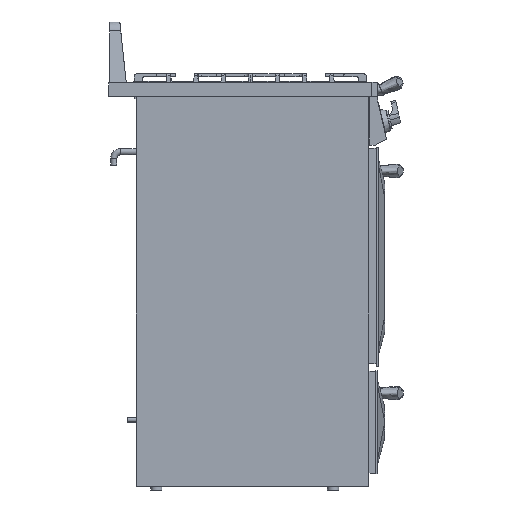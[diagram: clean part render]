
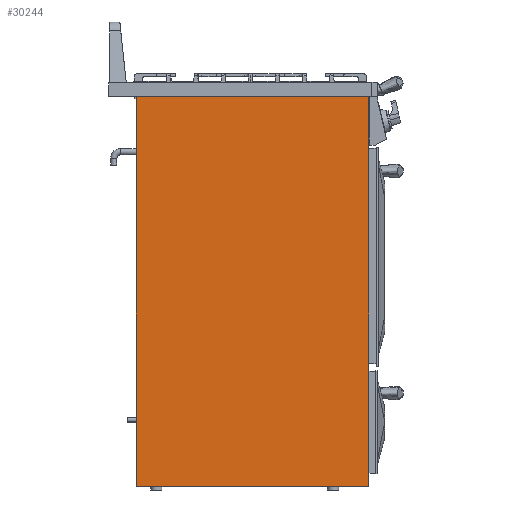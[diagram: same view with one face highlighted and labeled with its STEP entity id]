
A CAD part, left-side view. The second image highlights one B-rep face of the part: STEP entity #30244.
In plain terms, the highlighted planar face has unit normal (-1, 0, 0).
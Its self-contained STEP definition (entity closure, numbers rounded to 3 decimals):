
#1800=PLANE('',#32007);
#3167=LINE('',#52268,#5358);
#3290=LINE('',#57076,#5481);
#3296=LINE('',#57087,#5487);
#3298=LINE('',#57091,#5489);
#5358=VECTOR('',#35996,1000.);
#5481=VECTOR('',#36291,1000.);
#5487=VECTOR('',#36301,1000.);
#5489=VECTOR('',#36305,1000.);
#10803=ORIENTED_EDGE('',*,*,#16093,.T.);
#10804=ORIENTED_EDGE('',*,*,#16434,.F.);
#10805=ORIENTED_EDGE('',*,*,#16442,.F.);
#10806=ORIENTED_EDGE('',*,*,#16440,.F.);
#16093=EDGE_CURVE('',#19378,#19377,#3167,.T.);
#16434=EDGE_CURVE('',#19594,#19377,#3290,.T.);
#16440=EDGE_CURVE('',#19378,#19598,#3296,.T.);
#16442=EDGE_CURVE('',#19598,#19594,#3298,.T.);
#19377=VERTEX_POINT('',#52267);
#19378=VERTEX_POINT('',#52269);
#19594=VERTEX_POINT('',#57075);
#19598=VERTEX_POINT('',#57088);
#22218=EDGE_LOOP('',(#10803,#10804,#10805,#10806));
#23802=FACE_BOUND('',#22218,.T.);
#30244=ADVANCED_FACE('',(#23802),#1800,.T.);
#32007=AXIS2_PLACEMENT_3D('',#57090,#36303,#36304);
#35996=DIRECTION('',(0.,-1.,0.));
#36291=DIRECTION('',(0.,0.,-1.));
#36301=DIRECTION('',(0.,0.,1.));
#36303=DIRECTION('',(-1.,0.,0.));
#36304=DIRECTION('',(0.,-1.,0.));
#36305=DIRECTION('',(0.,-1.,0.));
#52267=CARTESIAN_POINT('',(-931.85,-273.149,-421.843));
#52268=CARTESIAN_POINT('',(-931.85,239.688,-421.843));
#52269=CARTESIAN_POINT('',(-931.85,239.688,-421.843));
#57075=CARTESIAN_POINT('',(-931.85,-273.149,438.157));
#57076=CARTESIAN_POINT('',(-931.85,-273.149,438.157));
#57087=CARTESIAN_POINT('',(-931.85,239.688,-421.843));
#57088=CARTESIAN_POINT('',(-931.85,239.688,438.157));
#57090=CARTESIAN_POINT('',(-931.85,0.,-33.864));
#57091=CARTESIAN_POINT('',(-931.85,239.688,438.157));
